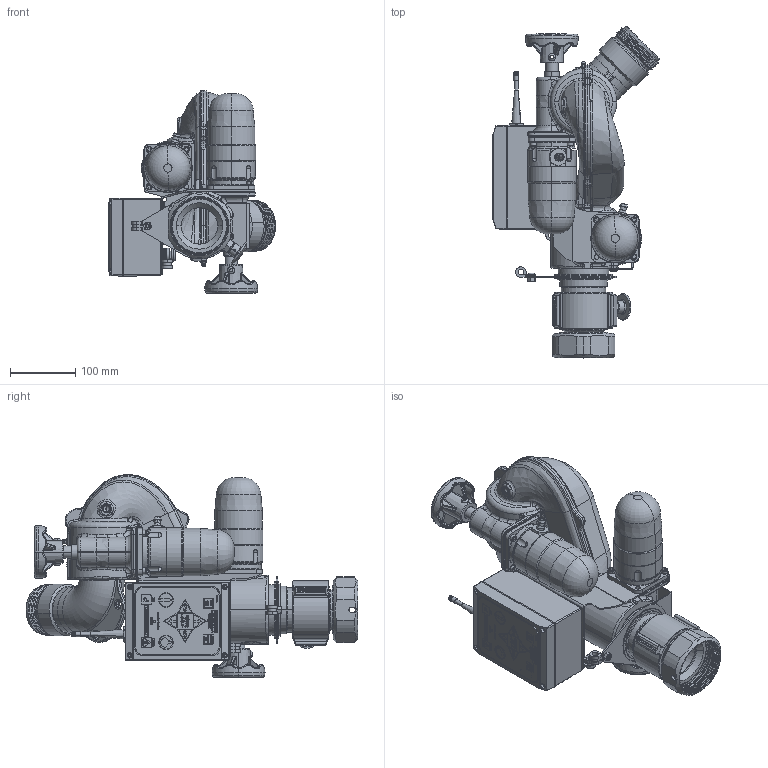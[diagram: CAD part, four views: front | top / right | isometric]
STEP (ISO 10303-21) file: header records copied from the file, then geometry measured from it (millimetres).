
FILE_DESCRIPTION (( 'STEP AP203' ), '1' );
FILE_NAME ('Y2-EL1A_45_Up.STEP', '2014-07-03T15:52:33', ( '' ), ( '' ), 'SwSTEP 2.0', 'SolidWorks 2014', '' );
FILE_SCHEMA (( 'CONFIG_CONTROL_DESIGN' ));
Products named in the file (1): Y2-EL1A_45_Up
Bounding box: 256.68 x 509.65 x 311.34 mm (x, y, z)
Surface area: 655781.5 mm2 (no closed solid volume)
Topology: 0 solids, 208 shells, 2355 faces, 10326 edges, 8060 vertices
Faces by surface type: plane 745, cylinder 629, bspline 427, torus 285, cone 247, sphere 22
Entity records: 188682 total; most frequent: CARTESIAN_POINT 112586, ORIENTED_EDGE 14896, DIRECTION 13462, EDGE_CURVE 10324, VERTEX_POINT 8059, LINE 4802, VECTOR 4802, AXIS2_PLACEMENT_3D 4330
